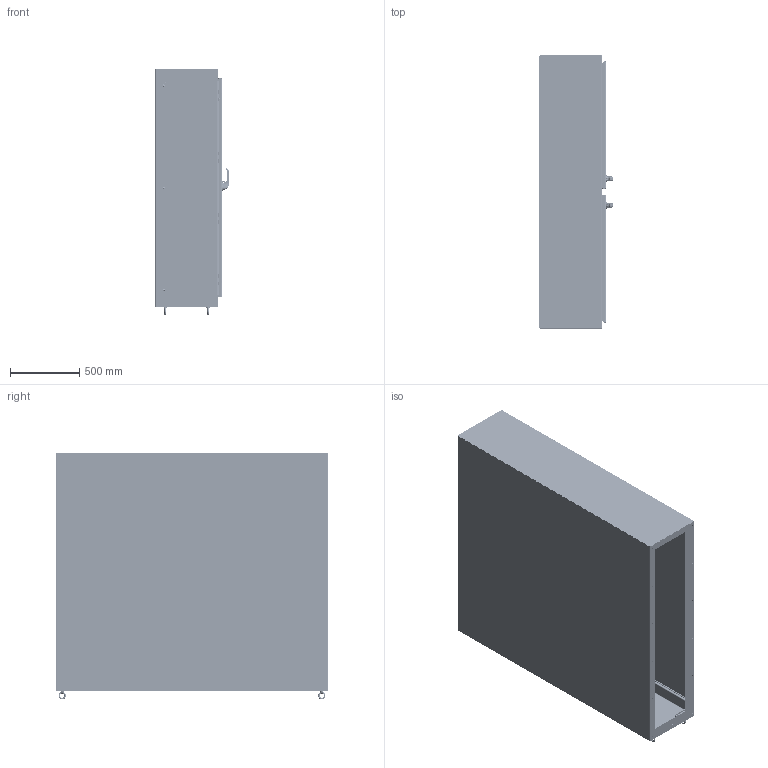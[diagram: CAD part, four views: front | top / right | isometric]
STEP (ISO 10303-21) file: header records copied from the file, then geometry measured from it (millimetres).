
FILE_DESCRIPTION((''),'2;1');
FILE_NAME('MODEL-462_ASM','2023-09-20T12:59:11',('johnh'),('SAGINAW CONTROL & ENGINEERING'),'CREO PARAMETRIC BY PTC INC, 2021284','CREO PARAMETRIC BY PTC INC, 2021284','');
FILE_SCHEMA(('AUTOMOTIVE_DESIGN { 1 0 10303 214 1 1 1 1 }'));
Length unit declared in the file: inch
Products named in the file (94): MODEL-462-L-SD; MODEL-462-TP; MODEL-462-R-SD; MODEL-462-BTM; MODEL-462-RH-DR; 100837; 100957_HANDLE; 100957_HANDLE_INSERT; 100957_SHAFT_CAM; 100957_ADAPTER_CAM; 100957_NUT_CAM; 100957_BASE; 100957_O-RING; 100957_WASHER_SEALING; 100957_NUT_MOUNTING_LARGE; 100957_NUT_MOUNTING_SMALL; 100957_SCREW_SMALL; 100957_PADLOCK_CATCH; 100957_STOP_CAM; 100957_ASM; 102236; 100030; 102236_ASM; MODEL-462-ROD-RH-UPR; 128146; 128145; 128144; 102482; MODEL-462-ROD-RH-UPR_ASM; 128143; 100882; 112504; MODEL-462-ROD-RH-LWR; MODEL-462-ROD-RH-LWR_ASM; MODEL-462-PR-GSKT-RH; 128258; 128258_ASM; 126395; 102483; 101383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
Assembly tree (236 placements, depth 4):
  MODEL-462_ASM
    MODEL-462-L-SD
    MODEL-462-TP
    MODEL-462-R-SD
    MODEL-462-BTM
    MODEL-462-RH-DOOR-ASSY_ASM
      MODEL-462-RH-DR
      100837  x3
      100957_ASM
        100957_HANDLE
        100957_HANDLE_INSERT
        100957_SHAFT_CAM
        100957_ADAPTER_CAM
        100957_NUT_CAM
        100957_BASE
        100957_O-RING
        100957_WASHER_SEALING
        100957_NUT_MOUNTING_LARGE
        100957_NUT_MOUNTING_SMALL
        100957_SCREW_SMALL
        100957_PADLOCK_CATCH
        100957_STOP_CAM
      102236_ASM
        102236
        100030  x2
      MODEL-462-ROD-RH-UPR_ASM
        MODEL-462-ROD-RH-UPR
        128146
        128145
        128144
        102482  x2
      128143  x2
      100882  x10
      112504  x2
      MODEL-462-ROD-RH-LWR_ASM
        MODEL-462-ROD-RH-LWR
        128146
        128145
        128144
        102482  x2
      MODEL-462-PR-GSKT-RH
      128258_ASM  x4
        128258
      126395  x4
      102483  x4
      101383_ASM  x4
        101383
        101383-STUD
      101221  x4
    MODEL-462-LH-DOOR-ASSY_ASM
      MODEL-462-LH-DR
      100837  x3
      100957_ASM
        100957_HANDLE
        100957_HANDLE_INSERT
        100957_SHAFT_CAM
        100957_ADAPTER_CAM
        100957_NUT_CAM
        100957_BASE
        100957_O-RING
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Bounding box: 534.57 x 1974.85 x 1788.36 mm (x, y, z)
Volume: 40971259.8 mm3; surface area: 29384086.3 mm2
Topology: 277 solids, 277 shells, 23198 faces, 59430 edges, 36851 vertices
Faces by surface type: plane 8043, cylinder 6503, bspline 4687, torus 1709, cone 1241, sphere 694, extrusion 321
Entity records: 496780 total; most frequent: CARTESIAN_POINT 217882, ORIENTED_EDGE 41450, DIRECTION 39334, PRESENTATION_STYLE_ASSIGNMENT 21680, STYLED_ITEM 21540, CURVE_STYLE 20725, EDGE_CURVE 20725, AXIS2_PLACEMENT_3D 14543
